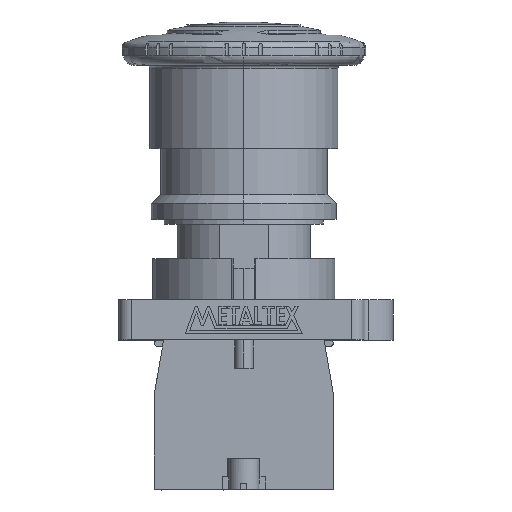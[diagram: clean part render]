
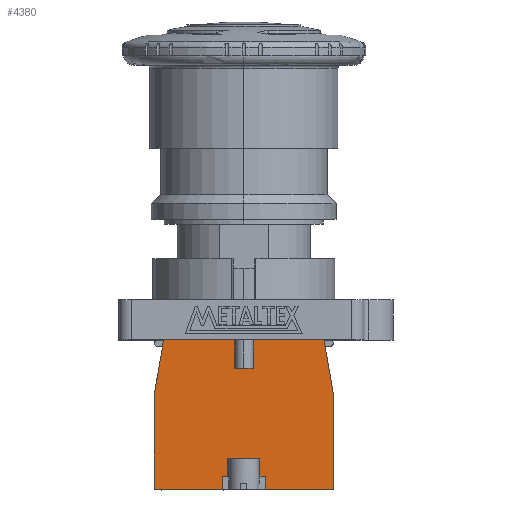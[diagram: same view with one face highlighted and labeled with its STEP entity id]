
A CAD part, top view. The second image highlights one B-rep face of the part: STEP entity #4380.
In plain terms, the highlighted planar face has unit normal (0, 0, 1).
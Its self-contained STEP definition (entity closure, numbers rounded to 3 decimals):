
#1 = CARTESIAN_POINT ( 'NONE',  ( -2.6, 5., 7.45 ) ) ;
#22 = CARTESIAN_POINT ( 'NONE',  ( 1.5, 19.6, 7.45 ) ) ;
#50 = CARTESIAN_POINT ( 'NONE',  ( -1.5, 19.6, 7.45 ) ) ;
#87 = CARTESIAN_POINT ( 'NONE',  ( -14.5, 0., 7.45 ) ) ;
#134 = CARTESIAN_POINT ( 'NONE',  ( -14.5, 15.5, 7.45 ) ) ;
#469 = ORIENTED_EDGE ( 'NONE', *, *, #4563, .T. ) ;
#470 = ORIENTED_EDGE ( 'NONE', *, *, #4549, .T. ) ;
#471 = ORIENTED_EDGE ( 'NONE', *, *, #4657, .T. ) ;
#472 = ORIENTED_EDGE ( 'NONE', *, *, #4709, .T. ) ;
#473 = ORIENTED_EDGE ( 'NONE', *, *, #4689, .T. ) ;
#474 = ORIENTED_EDGE ( 'NONE', *, *, #4557, .T. ) ;
#475 = ORIENTED_EDGE ( 'NONE', *, *, #4551, .T. ) ;
#476 = ORIENTED_EDGE ( 'NONE', *, *, #4546, .T. ) ;
#477 = ORIENTED_EDGE ( 'NONE', *, *, #4668, .F. ) ;
#478 = ORIENTED_EDGE ( 'NONE', *, *, #4537, .F. ) ;
#479 = ORIENTED_EDGE ( 'NONE', *, *, #4536, .F. ) ;
#480 = ORIENTED_EDGE ( 'NONE', *, *, #4552, .T. ) ;
#481 = ORIENTED_EDGE ( 'NONE', *, *, #4583, .T. ) ;
#482 = ORIENTED_EDGE ( 'NONE', *, *, #4716, .T. ) ;
#483 = ORIENTED_EDGE ( 'NONE', *, *, #4547, .T. ) ;
#484 = ORIENTED_EDGE ( 'NONE', *, *, #4705, .T. ) ;
#485 = ORIENTED_EDGE ( 'NONE', *, *, #4538, .F. ) ;
#487 = ORIENTED_EDGE ( 'NONE', *, *, #4666, .T. ) ;
#1633 = EDGE_LOOP ( 'NONE', ( #470, #472, #469, #471, #473, #474, #476, #475, #477, #478, #480, #479, #481, #483, #482, #484, #485, #487 ) ) ;
#3415 = VERTEX_POINT ( 'NONE', #5697 ) ;
#3416 = VERTEX_POINT ( 'NONE', #5696 ) ;
#3417 = VERTEX_POINT ( 'NONE', #5695 ) ;
#3418 = VERTEX_POINT ( 'NONE', #5694 ) ;
#3493 = VERTEX_POINT ( 'NONE', #5616 ) ;
#3499 = VERTEX_POINT ( 'NONE', #5611 ) ;
#3501 = VERTEX_POINT ( 'NONE', #5608 ) ;
#3661 = VERTEX_POINT ( 'NONE', #134 ) ;
#3686 = VERTEX_POINT ( 'NONE', #87 ) ;
#3705 = VERTEX_POINT ( 'NONE', #50 ) ;
#3725 = VERTEX_POINT ( 'NONE', #22 ) ;
#3739 = VERTEX_POINT ( 'NONE', #1 ) ;
#3741 = VERTEX_POINT ( 'NONE', #7508 ) ;
#3852 = VERTEX_POINT ( 'NONE', #8090 ) ;
#3877 = VERTEX_POINT ( 'NONE', #7401 ) ;
#3881 = VERTEX_POINT ( 'NONE', #7392 ) ;
#3927 = VERTEX_POINT ( 'NONE', #7365 ) ;
#3930 = VERTEX_POINT ( 'NONE', #7374 ) ;
#4380 = ADVANCED_FACE ( 'NONE', ( #10711 ), #7165, .T. ) ;
#4536 = EDGE_CURVE ( 'NONE', #3501, #3415, #14961, .T. ) ;
#4537 = EDGE_CURVE ( 'NONE', #3416, #3741, #14956, .T. ) ;
#4538 = EDGE_CURVE ( 'NONE', #3725, #3852, #14953, .T. ) ;
#4546 = EDGE_CURVE ( 'NONE', #3418, #3417, #14930, .T. ) ;
#4547 = EDGE_CURVE ( 'NONE', #3499, #3927, #14926, .T. ) ;
#4549 = EDGE_CURVE ( 'NONE', #3705, #3877, #14921, .T. ) ;
#4551 = EDGE_CURVE ( 'NONE', #3417, #3739, #14915, .T. ) ;
#4552 = EDGE_CURVE ( 'NONE', #3416, #3415, #14912, .T. ) ;
#4557 = EDGE_CURVE ( 'NONE', #3493, #3418, #14897, .T. ) ;
#4563 = EDGE_CURVE ( 'NONE', #3881, #3661, #14878, .T. ) ;
#4583 = EDGE_CURVE ( 'NONE', #3501, #3499, #15034, .T. ) ;
#4657 = EDGE_CURVE ( 'NONE', #3661, #3686, #15175, .T. ) ;
#4666 = EDGE_CURVE ( 'NONE', #3725, #3705, #15149, .T. ) ;
#4668 = EDGE_CURVE ( 'NONE', #3741, #3739, #15146, .T. ) ;
#4689 = EDGE_CURVE ( 'NONE', #3686, #3493, #14644, .T. ) ;
#4705 = EDGE_CURVE ( 'NONE', #3930, #3852, #14597, .T. ) ;
#4709 = EDGE_CURVE ( 'NONE', #3877, #3881, #14584, .T. ) ;
#4716 = EDGE_CURVE ( 'NONE', #3927, #3930, #15360, .T. ) ;
#5608 = CARTESIAN_POINT ( 'NONE',  ( 3.5, 0., 7.45 ) ) ;
#5611 = CARTESIAN_POINT ( 'NONE',  ( 14.5, 0., 7.45 ) ) ;
#5616 = CARTESIAN_POINT ( 'NONE',  ( -3.5, 0., 7.45 ) ) ;
#5694 = CARTESIAN_POINT ( 'NONE',  ( -3.5, 2., 7.45 ) ) ;
#5695 = CARTESIAN_POINT ( 'NONE',  ( -2.6, 2., 7.45 ) ) ;
#5696 = CARTESIAN_POINT ( 'NONE',  ( 2.6, 2., 7.45 ) ) ;
#5697 = CARTESIAN_POINT ( 'NONE',  ( 3.5, 2., 7.45 ) ) ;
#7160 = DIRECTION ( 'NONE',  ( 1., 0., 0. ) ) ;
#7163 = DIRECTION ( 'NONE',  ( 0., 0., 1. ) ) ;
#7164 = CARTESIAN_POINT ( 'NONE',  ( 0., 0., 7.45 ) ) ;
#7165 = PLANE ( 'NONE',  #11874 ) ;
#7365 = CARTESIAN_POINT ( 'NONE',  ( 14.5, 15.5, 7.45 ) ) ;
#7374 = CARTESIAN_POINT ( 'NONE',  ( 13., 24.2, 7.45 ) ) ;
#7392 = CARTESIAN_POINT ( 'NONE',  ( -13., 24.2, 7.45 ) ) ;
#7401 = CARTESIAN_POINT ( 'NONE',  ( -1.5, 24.2, 7.45 ) ) ;
#7508 = CARTESIAN_POINT ( 'NONE',  ( 2.6, 5., 7.45 ) ) ;
#8090 = CARTESIAN_POINT ( 'NONE',  ( 1.5, 24.2, 7.45 ) ) ;
#10711 = FACE_OUTER_BOUND ( 'NONE', #1633, .T. ) ;
#11396 = VECTOR ( 'NONE', #15362, 1000. ) ;
#11404 = VECTOR ( 'NONE', #14445, 1000. ) ;
#11418 = VECTOR ( 'NONE', #14595, 1000. ) ;
#11530 = VECTOR ( 'NONE', #14643, 1000. ) ;
#11618 = VECTOR ( 'NONE', #15142, 1000. ) ;
#11630 = VECTOR ( 'NONE', #15150, 1000. ) ;
#11685 = VECTOR ( 'NONE', #15173, 1000. ) ;
#11783 = VECTOR ( 'NONE', #14814, 1000. ) ;
#11874 = AXIS2_PLACEMENT_3D ( 'NONE', #7164, #7163, #7160 ) ;
#11879 = VECTOR ( 'NONE', #14876, 1000. ) ;
#11919 = VECTOR ( 'NONE', #14894, 1000. ) ;
#11928 = VECTOR ( 'NONE', #14910, 1000. ) ;
#11930 = VECTOR ( 'NONE', #14913, 1000. ) ;
#11934 = VECTOR ( 'NONE', #14918, 1000. ) ;
#11936 = VECTOR ( 'NONE', #14924, 1000. ) ;
#11938 = VECTOR ( 'NONE', #14931, 1000. ) ;
#11953 = VECTOR ( 'NONE', #14954, 1000. ) ;
#11954 = VECTOR ( 'NONE', #14955, 1000. ) ;
#11955 = VECTOR ( 'NONE', #14959, 1000. ) ;
#14445 = DIRECTION ( 'NONE',  ( -1., 0., 0. ) ) ;
#14584 = LINE ( 'NONE', #14586, #11404 ) ;
#14586 = CARTESIAN_POINT ( 'NONE',  ( 13., 24.2, 7.45 ) ) ;
#14595 = DIRECTION ( 'NONE',  ( -1., 0., 0. ) ) ;
#14596 = CARTESIAN_POINT ( 'NONE',  ( 13., 24.2, 7.45 ) ) ;
#14597 = LINE ( 'NONE', #14596, #11418 ) ;
#14643 = DIRECTION ( 'NONE',  ( 1., 0., 0. ) ) ;
#14644 = LINE ( 'NONE', #14646, #11530 ) ;
#14646 = CARTESIAN_POINT ( 'NONE',  ( -14.5, 0., 7.45 ) ) ;
#14814 = DIRECTION ( 'NONE',  ( 1., 0., 0. ) ) ;
#14876 = DIRECTION ( 'NONE',  ( -0.17, -0.985, 0. ) ) ;
#14878 = LINE ( 'NONE', #14880, #11879 ) ;
#14880 = CARTESIAN_POINT ( 'NONE',  ( -13., 24.2, 7.45 ) ) ;
#14894 = DIRECTION ( 'NONE',  ( 0., 1., 0. ) ) ;
#14896 = CARTESIAN_POINT ( 'NONE',  ( -3.5, 0., 7.45 ) ) ;
#14897 = LINE ( 'NONE', #14896, #11919 ) ;
#14910 = DIRECTION ( 'NONE',  ( 1., 0., 0. ) ) ;
#14911 = CARTESIAN_POINT ( 'NONE',  ( 0., 2., 7.45 ) ) ;
#14912 = LINE ( 'NONE', #14911, #11928 ) ;
#14913 = DIRECTION ( 'NONE',  ( 0., 1., 0. ) ) ;
#14914 = CARTESIAN_POINT ( 'NONE',  ( -2.6, 0., 7.45 ) ) ;
#14915 = LINE ( 'NONE', #14914, #11930 ) ;
#14918 = DIRECTION ( 'NONE',  ( 0., 1., 0. ) ) ;
#14919 = CARTESIAN_POINT ( 'NONE',  ( -1.5, 19.6, 7.45 ) ) ;
#14921 = LINE ( 'NONE', #14919, #11934 ) ;
#14924 = DIRECTION ( 'NONE',  ( 0., 1., 0. ) ) ;
#14926 = LINE ( 'NONE', #14928, #11936 ) ;
#14928 = CARTESIAN_POINT ( 'NONE',  ( 14.5, 0., 7.45 ) ) ;
#14929 = CARTESIAN_POINT ( 'NONE',  ( 0., 2., 7.45 ) ) ;
#14930 = LINE ( 'NONE', #14929, #11938 ) ;
#14931 = DIRECTION ( 'NONE',  ( 1., 0., 0. ) ) ;
#14952 = CARTESIAN_POINT ( 'NONE',  ( 1.5, 19.6, 7.45 ) ) ;
#14953 = LINE ( 'NONE', #14952, #11953 ) ;
#14954 = DIRECTION ( 'NONE',  ( 0., 1., 0. ) ) ;
#14955 = DIRECTION ( 'NONE',  ( 0., 1., 0. ) ) ;
#14956 = LINE ( 'NONE', #14958, #11954 ) ;
#14958 = CARTESIAN_POINT ( 'NONE',  ( 2.6, 0., 7.45 ) ) ;
#14959 = DIRECTION ( 'NONE',  ( 0., 1., 0. ) ) ;
#14960 = CARTESIAN_POINT ( 'NONE',  ( 3.5, 0., 7.45 ) ) ;
#14961 = LINE ( 'NONE', #14960, #11955 ) ;
#15034 = LINE ( 'NONE', #15035, #11783 ) ;
#15035 = CARTESIAN_POINT ( 'NONE',  ( -14.5, 0., 7.45 ) ) ;
#15142 = DIRECTION ( 'NONE',  ( -1., 0., 0. ) ) ;
#15143 = CARTESIAN_POINT ( 'NONE',  ( 0., 5., 7.45 ) ) ;
#15146 = LINE ( 'NONE', #15143, #11618 ) ;
#15147 = CARTESIAN_POINT ( 'NONE',  ( 0., 19.6, 7.45 ) ) ;
#15149 = LINE ( 'NONE', #15147, #11630 ) ;
#15150 = DIRECTION ( 'NONE',  ( -1., 0., 0. ) ) ;
#15173 = DIRECTION ( 'NONE',  ( 0., -1., 0. ) ) ;
#15175 = LINE ( 'NONE', #15178, #11685 ) ;
#15178 = CARTESIAN_POINT ( 'NONE',  ( -14.5, 15.5, 7.45 ) ) ;
#15360 = LINE ( 'NONE', #15361, #11396 ) ;
#15361 = CARTESIAN_POINT ( 'NONE',  ( 14.5, 15.5, 7.45 ) ) ;
#15362 = DIRECTION ( 'NONE',  ( -0.17, 0.985, 0. ) ) ;
